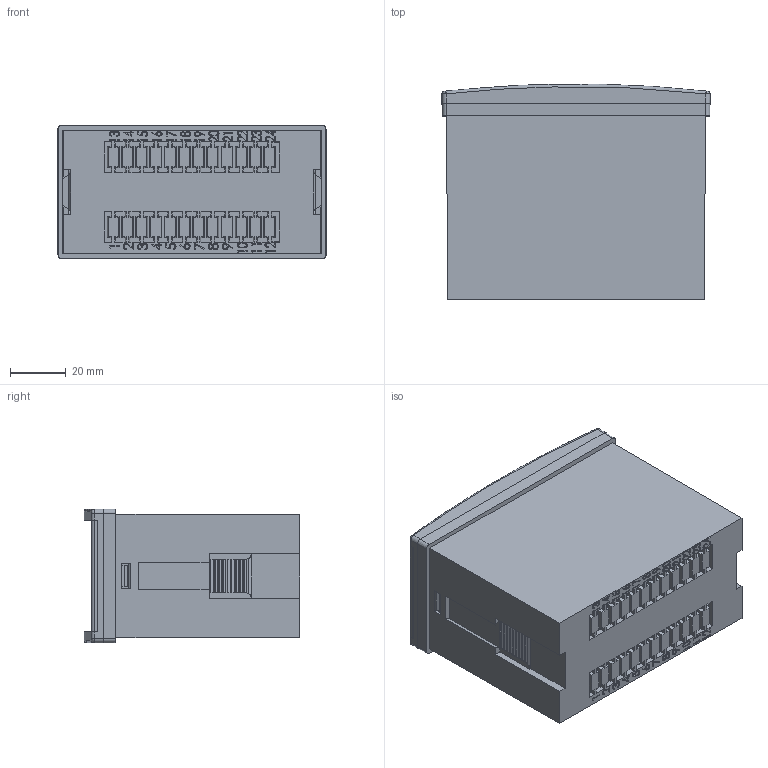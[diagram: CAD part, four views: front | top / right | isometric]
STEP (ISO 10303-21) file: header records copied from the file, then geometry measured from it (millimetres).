
FILE_DESCRIPTION (( 'STEP AP203' ), '1' );
FILE_NAME ('PPT165.STEP', '2021-04-02T09:12:39', ( '' ), ( '' ), 'SwSTEP 2.0', 'SolidWorks 2021', '' );
FILE_SCHEMA (( 'CONFIG_CONTROL_DESIGN' ));
Length unit declared in the file: millimetre
Products named in the file (4): PPT165
Assembly tree (3 placements, depth 2):
  PPT165
    PPT165
    PPT165
    PPT165
Bounding box: 95.9 x 77.04 x 47.8 mm (x, y, z)
Volume: 44775.4 mm3; surface area: 67301.4 mm2
Topology: 5 solids, 5 shells, 1177 faces, 3247 edges, 2152 vertices
Faces by surface type: plane 894, bspline 206, cylinder 73, cone 4
Entity records: 48481 total; most frequent: CARTESIAN_POINT 19454, ORIENTED_EDGE 6494, DIRECTION 4815, EDGE_CURVE 3247, VECTOR 2673, LINE 2673, VERTEX_POINT 2152, EDGE_LOOP 1319
